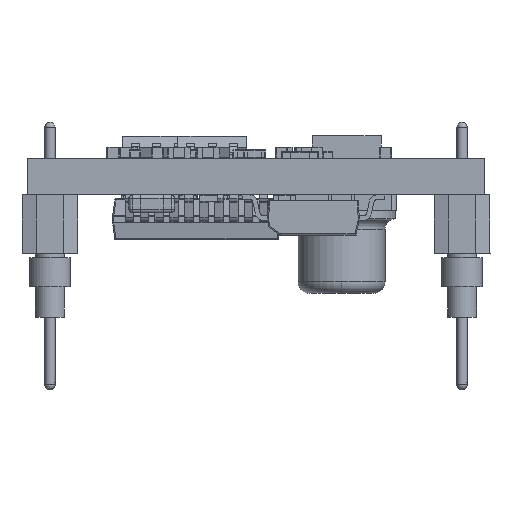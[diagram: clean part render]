
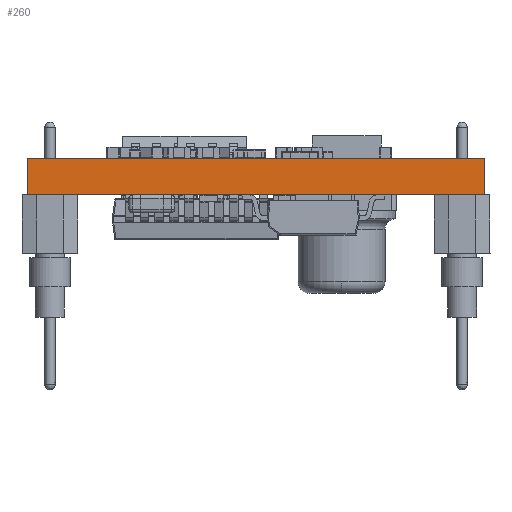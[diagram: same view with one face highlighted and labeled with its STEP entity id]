
A CAD part, front view. The second image highlights one B-rep face of the part: STEP entity #260.
In plain terms, the highlighted planar face has unit normal (0, -1, 0).
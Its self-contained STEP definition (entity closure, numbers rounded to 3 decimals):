
#260 = ADVANCED_FACE('',(#261),#295,.F.);
#261 = FACE_BOUND('',#262,.F.);
#262 = EDGE_LOOP('',(#263,#273,#281,#289));
#263 = ORIENTED_EDGE('',*,*,#264,.T.);
#264 = EDGE_CURVE('',#265,#267,#269,.T.);
#265 = VERTEX_POINT('',#266);
#266 = CARTESIAN_POINT('',(0.,0.,0.));
#267 = VERTEX_POINT('',#268);
#268 = CARTESIAN_POINT('',(0.,0.,1.589));
#269 = LINE('',#270,#271);
#270 = CARTESIAN_POINT('',(0.,0.,0.));
#271 = VECTOR('',#272,1.);
#272 = DIRECTION('',(0.,0.,1.));
#273 = ORIENTED_EDGE('',*,*,#274,.T.);
#274 = EDGE_CURVE('',#267,#275,#277,.T.);
#275 = VERTEX_POINT('',#276);
#276 = CARTESIAN_POINT('',(20.,0.,1.589));
#277 = LINE('',#278,#279);
#278 = CARTESIAN_POINT('',(0.,0.,1.589));
#279 = VECTOR('',#280,1.);
#280 = DIRECTION('',(1.,0.,0.));
#281 = ORIENTED_EDGE('',*,*,#282,.F.);
#282 = EDGE_CURVE('',#283,#275,#285,.T.);
#283 = VERTEX_POINT('',#284);
#284 = CARTESIAN_POINT('',(20.,0.,0.));
#285 = LINE('',#286,#287);
#286 = CARTESIAN_POINT('',(20.,0.,0.));
#287 = VECTOR('',#288,1.);
#288 = DIRECTION('',(0.,0.,1.));
#289 = ORIENTED_EDGE('',*,*,#290,.F.);
#290 = EDGE_CURVE('',#265,#283,#291,.T.);
#291 = LINE('',#292,#293);
#292 = CARTESIAN_POINT('',(0.,0.,0.));
#293 = VECTOR('',#294,1.);
#294 = DIRECTION('',(1.,0.,0.));
#295 = PLANE('',#296);
#296 = AXIS2_PLACEMENT_3D('',#297,#298,#299);
#297 = CARTESIAN_POINT('',(0.,0.,0.));
#298 = DIRECTION('',(0.,1.,0.));
#299 = DIRECTION('',(1.,0.,0.));
